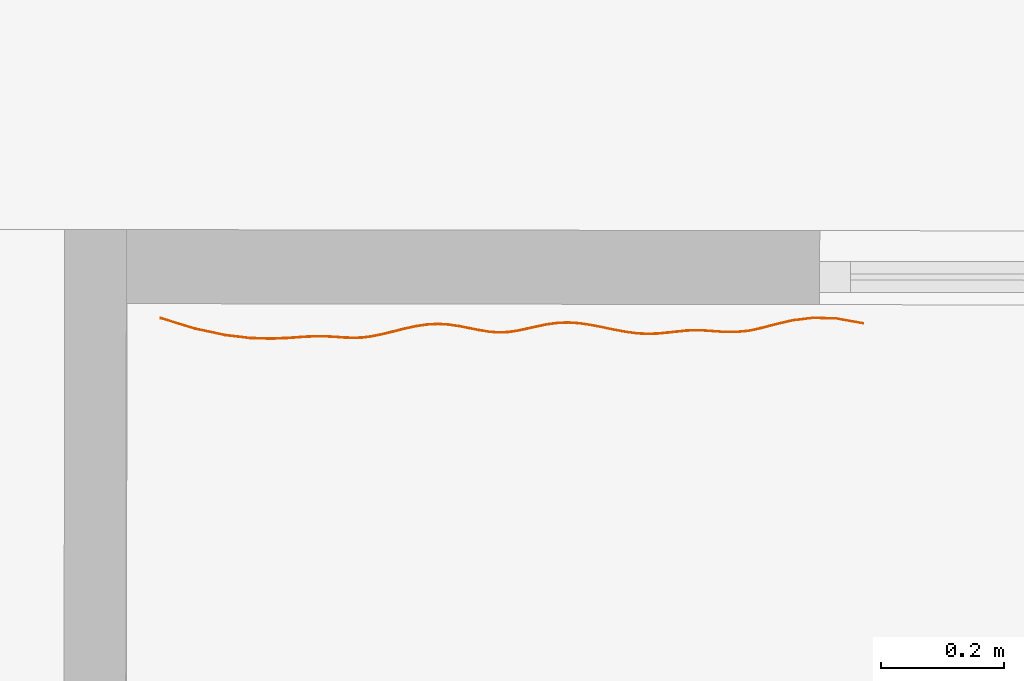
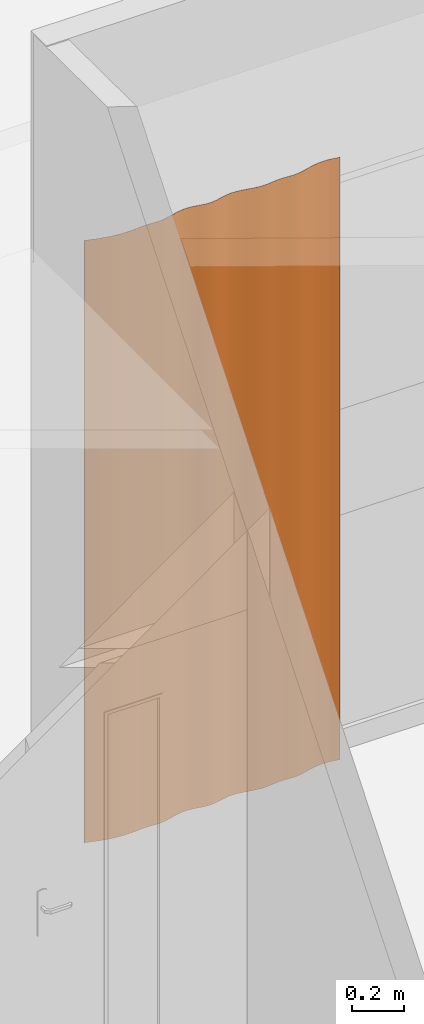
# One storey, part 41 of 43: 1 proxy.
"""IFC2X3 building model written with IfcOpenShell, lengths in metres."""

from ifc_helpers import new_model, entity, si_unit, converted_unit, derived_unit, direction, frame, origin, place, context, subcontext, project, spatial, polyline, outline, extrude, source, transform, mapped, material, type_object, type_shapes, element, save


model = new_model("IFC2X3")

# Units and contexts
model_context = context("Model", 3, precision=1e-05, world=origin(), true_north=direction((6.123233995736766e-17, 1.0)))
body_context = subcontext(model_context, "Body", "Model", "MODEL_VIEW")
ifc_project = project(units=[si_unit("LENGTHUNIT", "METRE"), si_unit("AREAUNIT", "SQUARE_METRE"), converted_unit("PLANEANGLEUNIT", "DEGREE", entity("IfcPlaneAngleMeasure", 0.017453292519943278), si_unit("PLANEANGLEUNIT", "RADIAN"), dimensions=[0, 0, 0, 0, 0, 0, 0]), derived_unit("THERMALTRANSMITTANCEUNIT", [(si_unit("MASSUNIT", "GRAM", prefix="KILO"), 1), (si_unit("THERMODYNAMICTEMPERATUREUNIT", "KELVIN"), -1), (si_unit("TIMEUNIT", "SECOND"), -3)])], contexts=[model_context])

# Site, building, storey
site_placement = place(None, frame((1253.6752467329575, 2072.143113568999, 91.49999999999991), z_axis=(0.0, 0.0, 1.0), x_axis=(0.7237211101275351, 0.6900925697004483, 0.0)))
site = spatial("IfcSite", under=ifc_project, at=site_placement, Name="Surface", CompositionType="ELEMENT")
building_placement = place(site_placement, origin())
building = spatial("IfcBuilding", under=site, at=building_placement, CompositionType="ELEMENT")
storey_placement = place(building_placement, frame((0.0, 0.0, -4.629999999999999)))
storey = spatial("IfcBuildingStorey", under=building, at=storey_placement, Name="rez de rue -1.10m", CompositionType="ELEMENT", Elevation=-4.629999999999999)

# Proxy
ifc_material = material(Name="OMD-rideaux")
building_element_proxy_type = type_object("IfcBuildingElementProxyType", Name="A6305 - Drapes:A6305 - Drapes, Pair 36\"x 3\"", PredefinedType="NOTDEFINED", material=ifc_material)
shared_shape = source(origin(), body_context, "Body", "SweptSolid", [
    extrude(outline(polyline([(-0.540311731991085, -0.1077539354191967), (-0.4951550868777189, -0.10775393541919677), (-0.45775509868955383, -0.10197111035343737), (-0.4267200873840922, -0.09249701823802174), (-0.40065837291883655, -0.08142321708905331), (-0.37817827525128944, -0.07084126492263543), (-0.357923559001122, -0.06275253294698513), (-0.33914756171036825, -0.05760737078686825), (-0.3216170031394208, -0.05454985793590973), (-0.30511463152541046, -0.052683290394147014), (-0.2894231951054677, -0.051110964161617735), (-0.2743254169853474, -0.048936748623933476), (-0.25958908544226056, -0.045605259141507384), (-0.24494186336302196, -0.04147659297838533), (-0.2301047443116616, -0.037063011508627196), (-0.21479872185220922, -0.03287677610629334), (-0.19874478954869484, -0.029430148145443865), (-0.18166507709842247, -0.027233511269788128), (-0.16347717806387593, -0.026474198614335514), (-0.14451436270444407, -0.02665253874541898), (-0.1251631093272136, -0.027180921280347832), (-0.10580989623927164, -0.02747173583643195), (-0.08684120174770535, -0.02693737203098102), (-0.06864350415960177, -0.02499021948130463), (-0.05152103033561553, -0.0211999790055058), (-0.03536042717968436, -0.01593500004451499), (-0.019916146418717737, -0.009816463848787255), (-0.004942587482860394, -0.003465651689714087), (0.009805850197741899, 0.0024961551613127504), (0.024574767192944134, 0.007447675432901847), (0.03960912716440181, 0.01077071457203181), (0.055070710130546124, 0.012250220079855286), (0.07095634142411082, 0.01247057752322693), (0.08724341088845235, 0.012110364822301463), (0.10390930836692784, 0.011848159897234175), (0.12093142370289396, 0.01236254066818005), (0.13828714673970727, 0.01433208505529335), (0.15594663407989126, 0.018392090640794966), (0.17375475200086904, 0.024428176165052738), (0.1914503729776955, 0.03169174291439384), (0.20876902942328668, 0.039414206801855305), (0.22544625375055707, 0.046826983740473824), (0.24121757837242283, 0.05316148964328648), (0.2558661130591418, 0.05772196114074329), (0.2697127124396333, 0.06063569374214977), (0.28341801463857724, 0.06255004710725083), (0.29764800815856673, 0.06412057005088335), (0.3130686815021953, 0.06600281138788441), (0.3303460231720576, 0.06885231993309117), (0.3501495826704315, 0.07331152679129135), (0.3733567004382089, 0.07925742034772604), (0.40116346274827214, 0.0853928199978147), (0.4347929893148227, 0.09032096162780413), (0.4754683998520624, 0.09264508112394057), (0.5244128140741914, 0.090968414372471), (0.5828493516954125, 0.08389419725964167), (0.5826371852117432, 0.08500080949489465), (0.5240718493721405, 0.09207915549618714), (0.47498167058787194, 0.09375140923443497), (0.4341554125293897, 0.09141037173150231), (0.40039038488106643, 0.08645618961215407), (0.3724943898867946, 0.08029783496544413), (0.34928946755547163, 0.07434512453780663), (0.329597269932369, 0.06990234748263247), (0.3124183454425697, 0.06707066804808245), (0.29705471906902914, 0.06519398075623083), (0.2828157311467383, 0.06361819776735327), (0.26902736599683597, 0.061690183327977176), (0.2550363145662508, 0.058742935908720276), (0.24022599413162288, 0.0541300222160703), (0.22436131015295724, 0.047753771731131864), (0.20766392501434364, 0.04032926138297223), (0.19037690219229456, 0.03261690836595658), (0.17276251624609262, 0.025378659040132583), (0.15511381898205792, 0.019407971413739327), (0.137656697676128, 0.015371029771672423), (0.12049046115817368, 0.013425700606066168), (0.10359413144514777, 0.012916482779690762), (0.08698066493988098, 0.013170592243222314), (0.07067445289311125, 0.013531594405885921), (0.05468900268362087, 0.013307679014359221), (0.03903749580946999, 0.011785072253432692), (0.02379220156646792, 0.008441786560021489), (0.008884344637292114, 0.003428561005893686), (-0.005922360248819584, -0.0025588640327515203), (-0.02088294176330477, -0.008904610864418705), (-0.0362464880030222, -0.01500070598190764), (-0.05226221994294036, -0.020214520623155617), (-0.06918078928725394, -0.023957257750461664), (-0.08718869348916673, -0.025904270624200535), (-0.10604467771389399, -0.02642834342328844), (-0.1253404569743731, -0.02614482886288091), (-0.14468982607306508, -0.02562008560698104), (-0.16370616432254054, -0.02544421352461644), (-0.18201695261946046, -0.02621331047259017), (-0.19925781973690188, -0.028433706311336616), (-0.2154304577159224, -0.03190870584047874), (-0.23079899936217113, -0.03611496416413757), (-0.24563715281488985, -0.04053168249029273), (-0.2602196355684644, -0.04464498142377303), (-0.274819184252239, -0.047944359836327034), (-0.2897868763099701, -0.05010714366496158), (-0.3054472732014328, -0.05168031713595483), (-0.32201099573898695, -0.05355618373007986), (-0.339675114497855, -0.05663775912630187), (-0.3586396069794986, -0.06185455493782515), (-0.3790529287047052, -0.06998759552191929), (-0.4015399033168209, -0.0805881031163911), (-0.42746218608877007, -0.09160877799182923), (-0.45826126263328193, -0.10101760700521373), (-0.49537444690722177, -0.10676284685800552), (-0.5402404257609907, -0.10677038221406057), (-0.540311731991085, -0.1077539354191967)])), frame((-0.7277431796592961, -0.38589664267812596, 4.629999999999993), z_axis=(0.0, 0.0, 1.0), x_axis=(-0.9821122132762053, 0.18829657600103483, 0.0)), (0.0, 0.0, 1.0), 2.852139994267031),
])
type_shapes(building_element_proxy_type, [shared_shape])
proxy_placement = place(storey_placement, frame((170.9607903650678, 1.933696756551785, -4.629999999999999), z_axis=(0.0, 0.0, 1.0), x_axis=(0.7325696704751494, -0.6806920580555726, 0.0)))
element("IfcBuildingElementProxy", 1, at=proxy_placement, inside=storey, type_object=building_element_proxy_type, material=ifc_material, Name="A6305 - Drapes:A6305 - Drapes, Pair 36\"x 3\"", ObjectType="A6305 - Drapes:A6305 - Drapes, Pair 36\"x 3\"", context=body_context, shape_type="MappedRepresentation", body=[
    mapped(shared_shape, transform((0.0, 0.0, 0.0), scale=1.0)),
])

save(model, "model.ifc")
